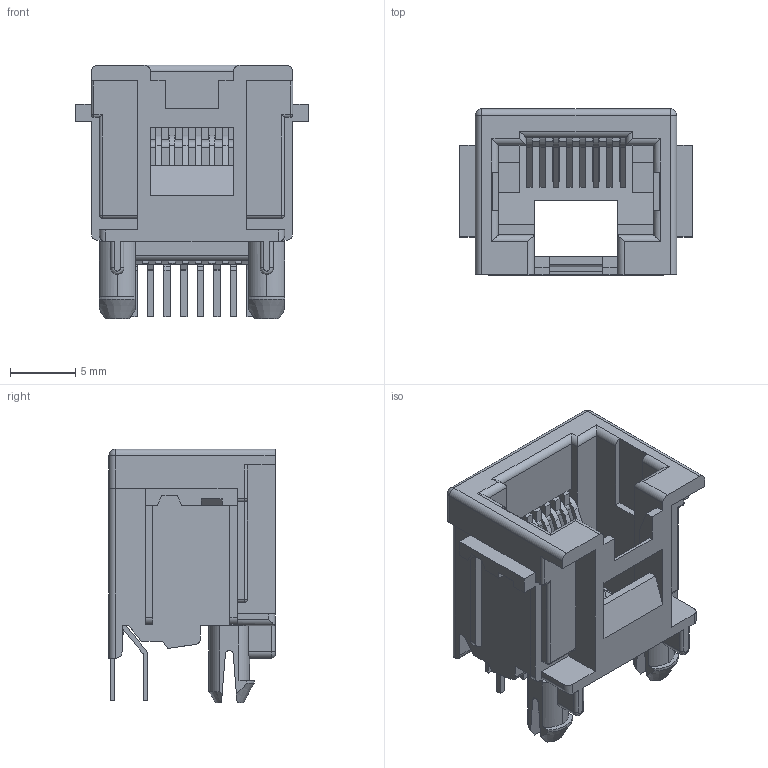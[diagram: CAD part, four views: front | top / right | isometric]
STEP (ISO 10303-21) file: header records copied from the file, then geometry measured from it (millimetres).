
FILE_DESCRIPTION((''),'2;1');
FILE_NAME('HCR07_P8CLED0001','2025-09-25T09:07:54',('DGKYD'),(''),'CREO PARAMETRIC BY PTC INC, 2019010','CREO PARAMETRIC BY PTC INC, 2019010','');
FILE_SCHEMA(('CONFIG_CONTROL_DESIGN'));
Length unit declared in the file: millimetre
Products named in the file (1): HCR07_P8CLED0001
Bounding box: 17.8 x 12.7 x 19.4 mm (x, y, z)
Volume: 1173.3 mm3; surface area: 2573.3 mm2
Topology: 1 solids, 1 shells, 560 faces, 1613 edges, 1054 vertices
Faces by surface type: plane 417, cylinder 131, sphere 6, cone 4, bspline 2
Entity records: 18496 total; most frequent: CARTESIAN_POINT 3586, ORIENTED_EDGE 3214, DIRECTION 2939, EDGE_CURVE 1607, VECTOR 1307, LINE 1307, VERTEX_POINT 1054, AXIS2_PLACEMENT_3D 816
